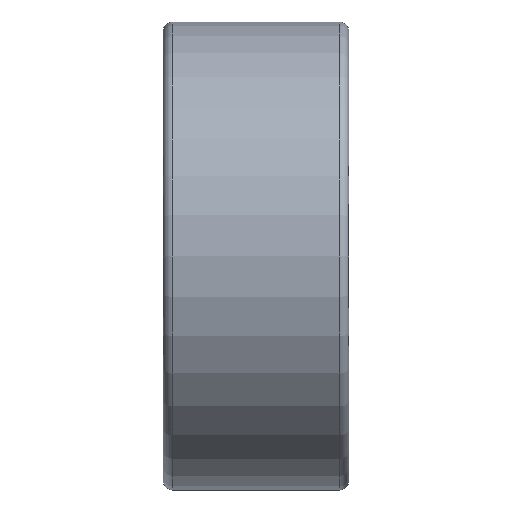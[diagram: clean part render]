
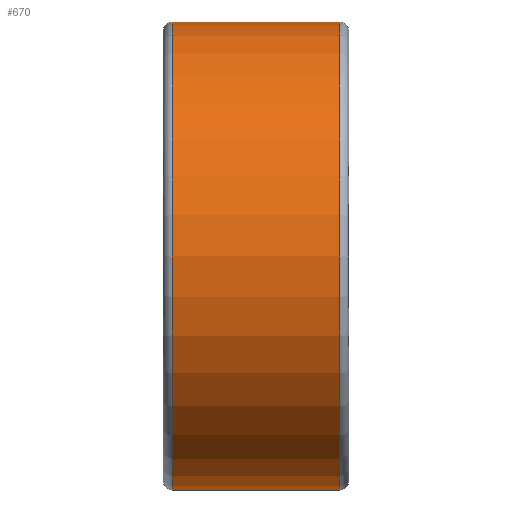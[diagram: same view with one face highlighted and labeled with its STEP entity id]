
A CAD part, front view. The second image highlights one B-rep face of the part: STEP entity #670.
In plain terms, the highlighted cylindrical face has radius 26 mm (diameter 52 mm), a full revolution.
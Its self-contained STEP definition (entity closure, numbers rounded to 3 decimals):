
#211=FACE_BOUND($,#319,.T.);
#243=FACE_OUTER_BOUND($,#318,.T.);
#318=EDGE_LOOP($,(#616));
#319=EDGE_LOOP($,(#617));
#353=CIRCLE($,#734,26.);
#354=CIRCLE($,#736,26.);
#415=VERTEX_POINT($,#1919);
#416=VERTEX_POINT($,#1922);
#484=EDGE_CURVE($,#415,#415,#353,.T.);
#485=EDGE_CURVE($,#416,#416,#354,.T.);
#616=ORIENTED_EDGE($,*,*,#484,.T.);
#617=ORIENTED_EDGE($,*,*,#485,.F.);
#636=CYLINDRICAL_SURFACE($,#735,26.);
#670=ADVANCED_FACE($,(#243,#211),#636,.T.);
#734=AXIS2_PLACEMENT_3D($,#1920,#867,#868);
#735=AXIS2_PLACEMENT_3D($,#1921,#869,#870);
#736=AXIS2_PLACEMENT_3D($,#1923,#871,#872);
#867=DIRECTION('center_axis',(1.,0.,0.));
#868=DIRECTION('ref_axis',(0.,0.,-1.));
#869=DIRECTION('center_axis',(1.,0.,0.));
#870=DIRECTION('ref_axis',(0.,1.,0.));
#871=DIRECTION('center_axis',(1.,0.,0.));
#872=DIRECTION('ref_axis',(0.,0.,-1.));
#1919=CARTESIAN_POINT('',(-9.3,26.,0.));
#1920=CARTESIAN_POINT('Origin',(-9.3,0.,0.));
#1921=CARTESIAN_POINT('Origin',(0.,0.,0.));
#1922=CARTESIAN_POINT('',(9.3,26.,0.));
#1923=CARTESIAN_POINT('Origin',(9.3,0.,0.));
